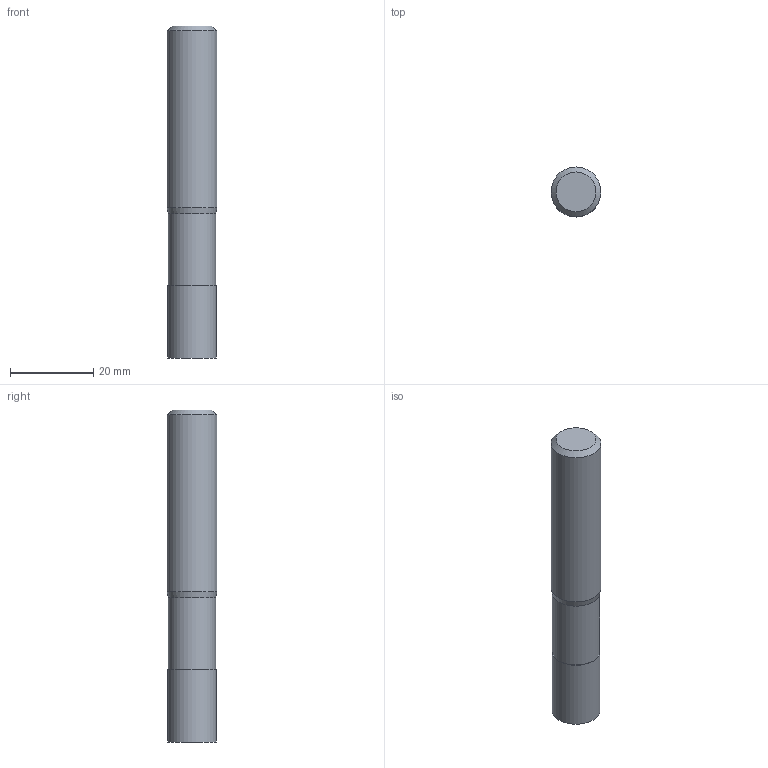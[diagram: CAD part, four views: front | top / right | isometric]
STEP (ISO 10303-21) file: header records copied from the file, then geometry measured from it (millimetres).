
FILE_DESCRIPTION((''),'2;1');
FILE_NAME('C:\Users\nsx150\AppData\Local\Temp\Mastercam 2021\EUJSUNXURU\TEMP.step','2021-04-22T10:30:22',(''),(''),'STEP Write','Mastercam 2021 ... CNC Software, Inc.','');
FILE_SCHEMA(('AUTOMOTIVE_DESIGN'));
Length unit declared in the file: millimetre
Products named in the file (1): None
Bounding box: 12 x 12 x 80 mm (x, y, z)
Volume: 8693.7 mm3; surface area: 3359.3 mm2
Topology: 2 solids, 2 shells, 9 faces, 12 edges, 7 vertices
Faces by surface type: plane 4, cylinder 3, cone 2
Full cylindrical faces by diameter (mm): 11.4 x1, 11.6 x1, 12 x1
Entity records: 211 total; most frequent: DIRECTION 36, CARTESIAN_POINT 25, AXIS2_PLACEMENT_3D 18, ORIENTED_EDGE 14, EDGE_LOOP 14, STYLED_ITEM 12, ADVANCED_FACE 9, FACE_BOUND 8
